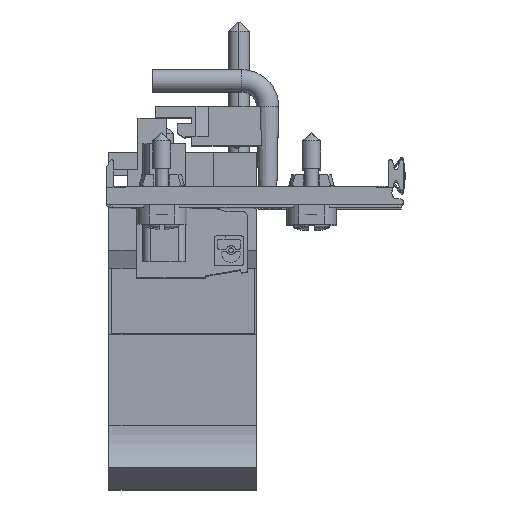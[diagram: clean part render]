
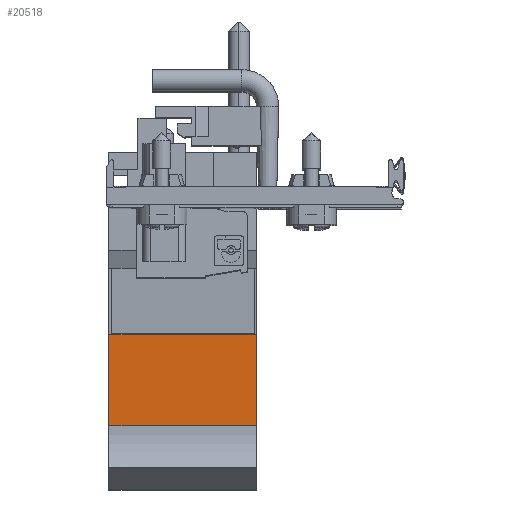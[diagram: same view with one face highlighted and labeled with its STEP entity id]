
A CAD part, top view. The second image highlights one B-rep face of the part: STEP entity #20518.
In plain terms, the highlighted planar face has unit normal (0, -0.065, 0.998).
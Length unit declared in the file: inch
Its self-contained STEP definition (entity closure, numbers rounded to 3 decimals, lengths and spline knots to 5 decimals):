
#983=DIRECTION('',(0.,0.998,0.065));
#984=VECTOR('',#983,0.48638);
#985=CARTESIAN_POINT('',(-0.707,-1.27144,0.75164));
#986=LINE('',#985,#984);
#1736=DIRECTION('',(0.,0.998,0.065));
#1737=VECTOR('',#1736,0.48638);
#1738=CARTESIAN_POINT('',(-1.495,-1.27144,0.75164));
#1739=LINE('',#1738,#1737);
#1959=DIRECTION('',(1.,0.,0.));
#1960=VECTOR('',#1959,0.788);
#1961=CARTESIAN_POINT('',(-1.495,-0.7861,0.78342));
#1962=LINE('',#1961,#1960);
#1963=DIRECTION('',(-1.,0.,0.));
#1964=VECTOR('',#1963,0.788);
#1965=CARTESIAN_POINT('',(-0.707,-1.27144,0.75164));
#1966=LINE('',#1965,#1964);
#15922=CARTESIAN_POINT('',(-1.495,-1.27144,0.75164));
#15923=VERTEX_POINT('',#15922);
#15928=CARTESIAN_POINT('',(-0.707,-1.27144,0.75164));
#15929=VERTEX_POINT('',#15928);
#16044=CARTESIAN_POINT('',(-1.495,-0.7861,0.78342));
#16045=VERTEX_POINT('',#16044);
#16052=CARTESIAN_POINT('',(-0.707,-0.7861,0.78342));
#16053=VERTEX_POINT('',#16052);
#20506=CARTESIAN_POINT('',(-0.707,-1.27144,0.75164));
#20507=DIRECTION('',(0.,0.065,-0.998));
#20508=DIRECTION('',(0.,0.998,0.065));
#20509=AXIS2_PLACEMENT_3D('',#20506,#20507,#20508);
#20510=PLANE('',#20509);
#20511=ORIENTED_EDGE('',*,*,#20501,.T.);
#20512=ORIENTED_EDGE('',*,*,#19464,.F.);
#20514=ORIENTED_EDGE('',*,*,#20513,.T.);
#20515=ORIENTED_EDGE('',*,*,#20279,.T.);
#20516=EDGE_LOOP('',(#20511,#20512,#20514,#20515));
#20517=FACE_OUTER_BOUND('',#20516,.F.);
#20518=ADVANCED_FACE('',(#20517),#20510,.F.);
#19464=EDGE_CURVE('',#15929,#16053,#986,.T.);
#20279=EDGE_CURVE('',#15923,#16045,#1739,.T.);
#20501=EDGE_CURVE('',#16045,#16053,#1962,.T.);
#20513=EDGE_CURVE('',#15929,#15923,#1966,.T.);
